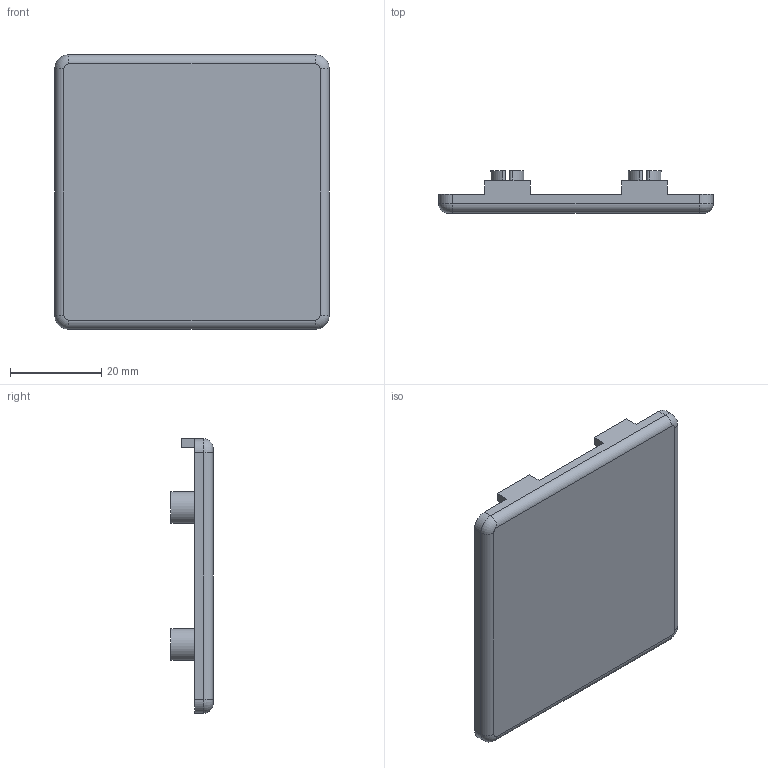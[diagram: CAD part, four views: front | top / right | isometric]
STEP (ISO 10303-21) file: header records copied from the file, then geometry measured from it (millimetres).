
FILE_DESCRIPTION (( 'STEP AP214' ), '1' );
FILE_NAME ('4015.STEP', '2017-08-10T06:19:52', ( '' ), ( '' ), 'SwSTEP 2.0', 'SolidWorks 2014', '' );
FILE_SCHEMA (( 'AUTOMOTIVE_DESIGN' ));
Length unit declared in the file: millimetre
Products named in the file (2): 4015
Bounding box: 60 x 9.2 x 60 mm (x, y, z)
Volume: 8527.8 mm3; surface area: 9582.6 mm2
Topology: 1 solids, 1 shells, 114 faces, 304 edges, 200 vertices
Faces by surface type: cylinder 68, plane 42, torus 4
Entity records: 3653 total; most frequent: DIRECTION 676, CARTESIAN_POINT 620, ORIENTED_EDGE 608, EDGE_CURVE 304, AXIS2_PLACEMENT_3D 256, VERTEX_POINT 200, VECTOR 164, LINE 164
